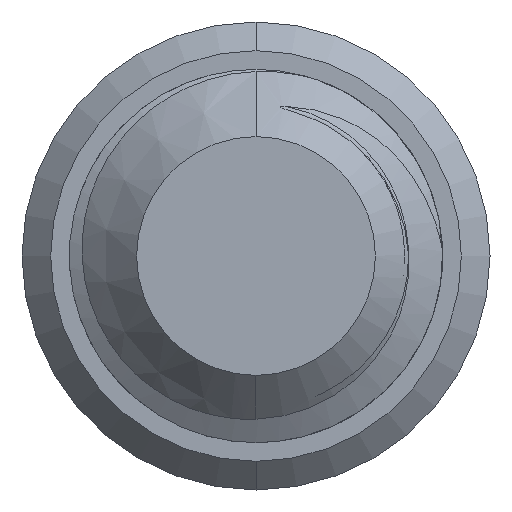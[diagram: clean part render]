
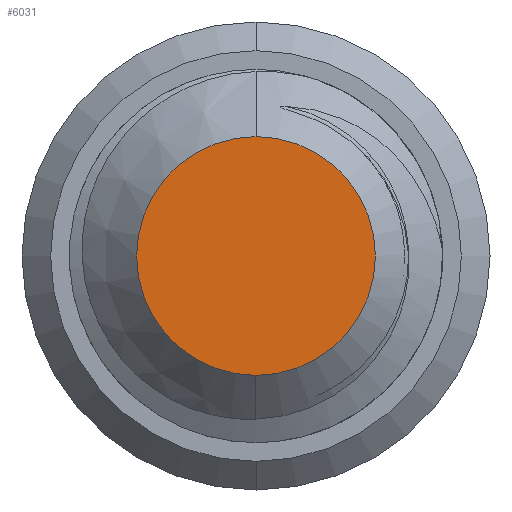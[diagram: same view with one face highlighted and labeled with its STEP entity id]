
A CAD part, front view. The second image highlights one B-rep face of the part: STEP entity #6031.
In plain terms, the highlighted planar face has unit normal (0, -1, 0).
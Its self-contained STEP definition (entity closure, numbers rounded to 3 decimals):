
#787 = CARTESIAN_POINT ( 'NONE',  ( 0., 0., 0. ) ) ;
#856 = ORIENTED_EDGE ( 'NONE', *, *, #5794, .T. ) ;
#1074 = PLANE ( 'NONE',  #7116 ) ;
#2219 = AXIS2_PLACEMENT_3D ( 'NONE', #787, #3960, #4044 ) ;
#2389 = DIRECTION ( 'NONE',  ( 0., -1., 0. ) ) ;
#2430 = DIRECTION ( 'NONE',  ( 0., 0., 1. ) ) ;
#2623 = AXIS2_PLACEMENT_3D ( 'NONE', #4431, #2389, #2430 ) ;
#2913 = CARTESIAN_POINT ( 'NONE',  ( 0., 0., 1.25 ) ) ;
#3884 = ORIENTED_EDGE ( 'NONE', *, *, #4439, .T. ) ;
#3960 = DIRECTION ( 'NONE',  ( 0., -1., 0. ) ) ;
#4044 = DIRECTION ( 'NONE',  ( 0., 0., 1. ) ) ;
#4431 = CARTESIAN_POINT ( 'NONE',  ( 0., 0., 0. ) ) ;
#4439 = EDGE_CURVE ( 'NONE', #4712, #7749, #5069, .T. ) ;
#4712 = VERTEX_POINT ( 'NONE', #5586 ) ;
#4809 = FACE_OUTER_BOUND ( 'NONE', #6279, .T. ) ;
#5069 = CIRCLE ( 'NONE', #2623, 1.25 ) ;
#5213 = CIRCLE ( 'NONE', #2219, 1.25 ) ;
#5586 = CARTESIAN_POINT ( 'NONE',  ( 0., 0., -1.25 ) ) ;
#5794 = EDGE_CURVE ( 'NONE', #7749, #4712, #5213, .T. ) ;
#6031 = ADVANCED_FACE ( 'NONE', ( #4809 ), #1074, .F. ) ;
#6120 = DIRECTION ( 'NONE',  ( 0., 0., 1. ) ) ;
#6279 = EDGE_LOOP ( 'NONE', ( #856, #3884 ) ) ;
#7116 = AXIS2_PLACEMENT_3D ( 'NONE', #8219, #8131, #6120 ) ;
#7749 = VERTEX_POINT ( 'NONE', #2913 ) ;
#8131 = DIRECTION ( 'NONE',  ( 0., 1., 0. ) ) ;
#8219 = CARTESIAN_POINT ( 'NONE',  ( 0., 0., 0. ) ) ;
